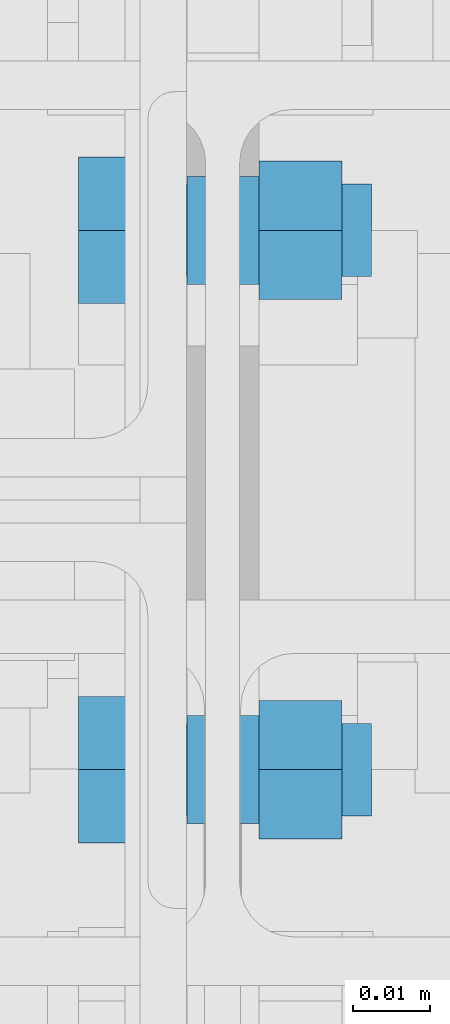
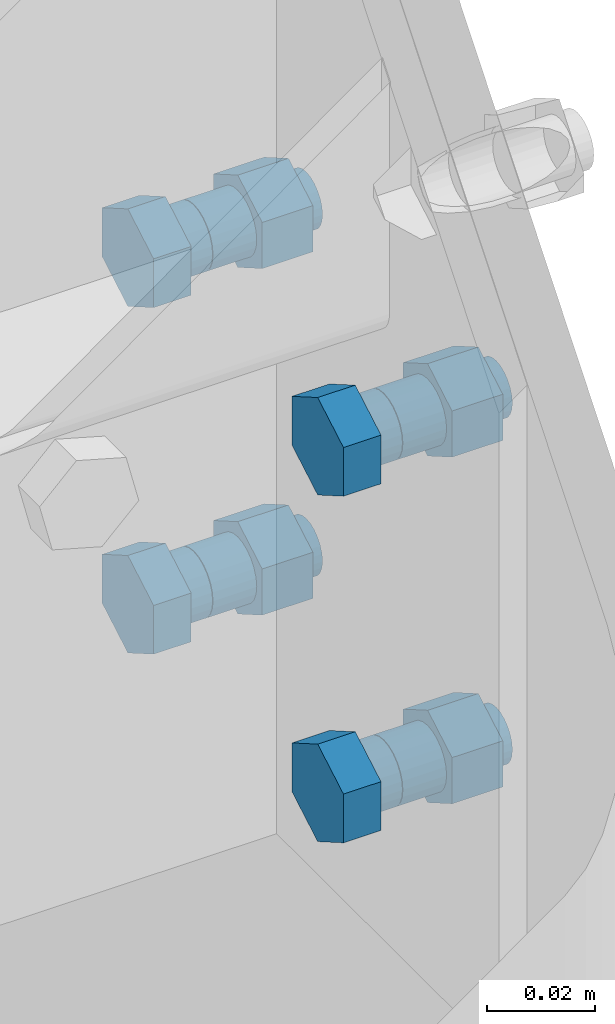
# One storey, part 10 of 21: 1 mechanical fastener.
"""IFC2X3 building model written with IfcOpenShell, lengths in millimetres."""

from ifc_helpers import new_model, si_unit, frame, origin_with_axes, place, context, project, spatial, faceted_brep, element, save


model = new_model("IFC2X3")

# Units and contexts
model_context_1 = context("Model", 3, precision=1e-05, world=origin_with_axes(), identifier="Body")
model_context_2 = context("Model", 3, precision=1e-05, world=origin_with_axes())
ifc_project = project(units=[si_unit("LENGTHUNIT", "METRE", prefix="MILLI"), si_unit("AREAUNIT", "SQUARE_METRE"), si_unit("VOLUMEUNIT", "CUBIC_METRE"), si_unit("MASSUNIT", "GRAM", prefix="KILO"), si_unit("TIMEUNIT", "SECOND"), si_unit("PLANEANGLEUNIT", "RADIAN"), si_unit("SOLIDANGLEUNIT", "STERADIAN"), si_unit("THERMODYNAMICTEMPERATUREUNIT", "DEGREE_CELSIUS"), si_unit("LUMINOUSINTENSITYUNIT", "LUMEN")], contexts=[model_context_1, model_context_2])

# Site, building, storey
site_placement = place(None, origin_with_axes())
site = spatial("IfcSite", under=ifc_project, at=site_placement, Name="Undefined", CompositionType="ELEMENT")
building_placement = place(site_placement, origin_with_axes())
building = spatial("IfcBuilding", under=site, at=building_placement, Name="Undefined", CompositionType="ELEMENT")
storey_placement = place(building_placement, origin_with_axes())
storey = spatial("IfcBuildingStorey", under=building, at=storey_placement, Name="Undefined", CompositionType="ELEMENT")

# Mechanical fastener
mechanical_fastener_placement = place(storey_placement, frame((-9.7282021e-06, -71.999999, 5339.9994), z_axis=(0.0, -1.0, 0.0), x_axis=(1.2908193e-13, -1.8000416e-13, -1.0)))
element("IfcMechanicalFastener", 1, at=mechanical_fastener_placement, inside=storey, Name="Bolt assembly", NominalDiameter=12.0, NominalLength=30.0, context=model_context_1, shape_type="Brep", body=[
    faceted_brep([(10.969655, -18.7, -35.0), (5.4848276, -18.7, -25.5), (-5.4848276, -18.7, -25.5), (-10.969655, -18.7, -35.0), (-5.4848276, -18.7, -44.5), (5.4848276, -18.7, -44.5), (5.4848276, -10.7, -44.5), (-5.4848276, -10.7, -44.5), (-10.969655, -10.7, -35.0), (-5.4848276, -10.7, -25.5), (5.4848276, -10.7, -25.5), (10.969655, -10.7, -35.0), (6.0, -10.7, -35.0), (5.795555, -10.7, -33.447086), (5.1961524, -10.7, -32.0), (4.2426407, -10.7, -30.757359), (3.0, -10.7, -29.803848), (1.5529143, -10.7, -29.204445), (-6.2180159e-13, -10.7, -29.0), (-1.5529143, -10.7, -29.204445), (-3.0, -10.7, -29.803848), (-4.2426407, -10.7, -30.757359), (-5.1961524, -10.7, -32.0), (-5.795555, -10.7, -33.447086), (-6.0, -10.7, -35.0), (-5.795555, -10.7, -36.552914), (-5.1961524, -10.7, -38.0), (-4.2426407, -10.7, -39.242641), (-3.0, -10.7, -40.196152), (-1.5529143, -10.7, -40.795555), (1.8587434e-12, -10.7, -41.0), (1.5529143, -10.7, -40.795555), (3.0, -10.7, -40.196152), (4.2426407, -10.7, -39.242641), (5.1961524, -10.7, -38.0), (5.795555, -10.7, -36.552914), (5.795555, 19.3, -36.552914), (5.1961524, 19.3, -38.0), (4.2426407, 19.3, -39.242641), (3.0, 19.3, -40.196152), (1.5529143, 19.3, -40.795555), (1.8587434e-12, 19.3, -41.0), (-1.5529143, 19.3, -40.795555), (-3.0, 19.3, -40.196152), (-4.2426407, 19.3, -39.242641), (-5.1961524, 19.3, -38.0), (-5.795555, 19.3, -36.552914), (-6.0, 19.3, -35.0), (-5.795555, 19.3, -33.447086), (-5.1961524, 19.3, -32.0), (-4.2426407, 19.3, -30.757359), (-3.0, 19.3, -29.803848), (-1.5529143, 19.3, -29.204445), (-6.2180159e-13, 19.3, -29.0), (1.5529143, 19.3, -29.204445), (3.0, 19.3, -29.803848), (4.2426407, 19.3, -30.757359), (5.1961524, 19.3, -32.0), (5.795555, 19.3, -33.447086), (6.0, 19.3, -35.0), (10.392305, 4.7000095, -35.0), (5.1961524, 4.7000095, -26.0), (-5.1961524, 4.7000095, -26.0), (-10.392305, 4.7000095, -35.0), (-5.1961524, 4.7000095, -44.0), (5.1961524, 4.7000095, -44.0), (5.1961524, 15.50001, -44.0), (-5.1961524, 15.50001, -44.0), (-10.392305, 15.50001, -35.0), (-5.1961524, 15.50001, -26.0), (5.1961524, 15.50001, -26.0), (10.392305, 15.50001, -35.0), (88.969655, -18.7, -35.0), (83.484828, -18.7, -25.5), (72.515172, -18.7, -25.5), (67.030345, -18.7, -35.0), (72.515172, -18.7, -44.5), (83.484828, -18.7, -44.5), (83.484828, -10.7, -44.5), (72.515172, -10.7, -44.5), (67.030345, -10.7, -35.0), (72.515172, -10.7, -25.5), (83.484828, -10.7, -25.5), (88.969655, -10.7, -35.0), (84.0, -10.7, -35.0), (83.795555, -10.7, -33.447086), (83.196152, -10.7, -32.0), (82.242641, -10.7, -30.757359), (81.0, -10.7, -29.803848), (79.552914, -10.7, -29.204445), (78.0, -10.7, -29.0), (76.447086, -10.7, -29.204445), (75.0, -10.7, -29.803848), (73.757359, -10.7, -30.757359), (72.803848, -10.7, -32.0), (72.204445, -10.7, -33.447086), (72.0, -10.7, -35.0), (72.204445, -10.7, -36.552914), (72.803848, -10.7, -38.0), (73.757359, -10.7, -39.242641), (75.0, -10.7, -40.196152), (76.447086, -10.7, -40.795555), (78.0, -10.7, -41.0), (79.552914, -10.7, -40.795555), (81.0, -10.7, -40.196152), (82.242641, -10.7, -39.242641), (83.196152, -10.7, -38.0), (83.795555, -10.7, -36.552914), (83.795555, 19.3, -36.552914), (83.196152, 19.3, -38.0), (82.242641, 19.3, -39.242641), (81.0, 19.3, -40.196152), (79.552914, 19.3, -40.795555), (78.0, 19.3, -41.0), (76.447086, 19.3, -40.795555), (75.0, 19.3, -40.196152), (73.757359, 19.3, -39.242641), (72.803848, 19.3, -38.0), (72.204445, 19.3, -36.552914), (72.0, 19.3, -35.0), (72.204445, 19.3, -33.447086), (72.803848, 19.3, -32.0), (73.757359, 19.3, -30.757359), (75.0, 19.3, -29.803848), (76.447086, 19.3, -29.204445), (78.0, 19.3, -29.0), (79.552914, 19.3, -29.204445), (81.0, 19.3, -29.803848), (82.242641, 19.3, -30.757359), (83.196152, 19.3, -32.0), (83.795555, 19.3, -33.447086), (84.0, 19.3, -35.0), (88.392305, 4.7000095, -35.0), (83.196152, 4.7000095, -26.0), (72.803848, 4.7000095, -26.0), (67.607695, 4.7000095, -35.0), (72.803848, 4.7000095, -44.0), (83.196152, 4.7000095, -44.0), (83.196152, 15.50001, -44.0), (72.803848, 15.50001, -44.0), (67.607695, 15.50001, -35.0), (72.803848, 15.50001, -26.0), (83.196152, 15.50001, -26.0), (88.392305, 15.50001, -35.0), (10.969655, -18.7, 35.0), (5.4848276, -18.7, 44.5), (-5.4848276, -18.7, 44.5), (-10.969655, -18.7, 35.0), (-5.4848276, -18.7, 25.5), (5.4848276, -18.7, 25.5), (5.4848276, -10.7, 25.5), (-5.4848276, -10.7, 25.5), (-10.969655, -10.7, 35.0), (-5.4848276, -10.7, 44.5), (5.4848276, -10.7, 44.5), (10.969655, -10.7, 35.0), (6.0, -10.7, 35.0), (5.795555, -10.7, 36.552914), (5.1961524, -10.7, 38.0), (4.2426407, -10.7, 39.242641), (3.0, -10.7, 40.196152), (1.5529143, -10.7, 40.795555), (-6.2180159e-13, -10.7, 41.0), (-1.5529143, -10.7, 40.795555), (-3.0, -10.7, 40.196152), (-4.2426407, -10.7, 39.242641), (-5.1961524, -10.7, 38.0), (-5.795555, -10.7, 36.552914), (-6.0, -10.7, 35.0), (-5.795555, -10.7, 33.447086), (-5.1961524, -10.7, 32.0), (-4.2426407, -10.7, 30.757359), (-3.0, -10.7, 29.803848), (-1.5529143, -10.7, 29.204445), (1.8587434e-12, -10.7, 29.0), (1.5529143, -10.7, 29.204445), (3.0, -10.7, 29.803848), (4.2426407, -10.7, 30.757359), (5.1961524, -10.7, 32.0), (5.795555, -10.7, 33.447086), (5.795555, 19.3, 33.447086), (5.1961524, 19.3, 32.0), (4.2426407, 19.3, 30.757359), (3.0, 19.3, 29.803848), (1.5529143, 19.3, 29.204445), (1.8587434e-12, 19.3, 29.0), (-1.5529143, 19.3, 29.204445), (-3.0, 19.3, 29.803848), (-4.2426407, 19.3, 30.757359), (-5.1961524, 19.3, 32.0), (-5.795555, 19.3, 33.447086), (-6.0, 19.3, 35.0), (-5.795555, 19.3, 36.552914), (-5.1961524, 19.3, 38.0), (-4.2426407, 19.3, 39.242641), (-3.0, 19.3, 40.196152), (-1.5529143, 19.3, 40.795555), (-6.2180159e-13, 19.3, 41.0), (1.5529143, 19.3, 40.795555), (3.0, 19.3, 40.196152), (4.2426407, 19.3, 39.242641), (5.1961524, 19.3, 38.0), (5.795555, 19.3, 36.552914), (6.0, 19.3, 35.0), (10.392305, 4.7000095, 35.0), (5.1961524, 4.7000095, 44.0), (-5.1961524, 4.7000095, 44.0), (-10.392305, 4.7000095, 35.0), (-5.1961524, 4.7000095, 26.0), (5.1961524, 4.7000095, 26.0), (5.1961524, 15.50001, 26.0), (-5.1961524, 15.50001, 26.0), (-10.392305, 15.50001, 35.0), (-5.1961524, 15.50001, 44.0), (5.1961524, 15.50001, 44.0), (10.392305, 15.50001, 35.0), (88.969655, -18.7, 35.0), (83.484828, -18.7, 44.5), (72.515172, -18.7, 44.5), (67.030345, -18.7, 35.0), (72.515172, -18.7, 25.5), (83.484828, -18.7, 25.5), (83.484828, -10.7, 25.5), (72.515172, -10.7, 25.5), (67.030345, -10.7, 35.0), (72.515172, -10.7, 44.5), (83.484828, -10.7, 44.5), (88.969655, -10.7, 35.0), (84.0, -10.7, 35.0), (83.795555, -10.7, 36.552914), (83.196152, -10.7, 38.0), (82.242641, -10.7, 39.242641), (81.0, -10.7, 40.196152), (79.552914, -10.7, 40.795555), (78.0, -10.7, 41.0), (76.447086, -10.7, 40.795555), (75.0, -10.7, 40.196152), (73.757359, -10.7, 39.242641), (72.803848, -10.7, 38.0), (72.204445, -10.7, 36.552914), (72.0, -10.7, 35.0), (72.204445, -10.7, 33.447086), (72.803848, -10.7, 32.0), (73.757359, -10.7, 30.757359), (75.0, -10.7, 29.803848), (76.447086, -10.7, 29.204445), (78.0, -10.7, 29.0), (79.552914, -10.7, 29.204445), (81.0, -10.7, 29.803848), (82.242641, -10.7, 30.757359), (83.196152, -10.7, 32.0), (83.795555, -10.7, 33.447086), (83.795555, 19.3, 33.447086), (83.196152, 19.3, 32.0), (82.242641, 19.3, 30.757359), (81.0, 19.3, 29.803848), (79.552914, 19.3, 29.204445), (78.0, 19.3, 29.0), (76.447086, 19.3, 29.204445), (75.0, 19.3, 29.803848), (73.757359, 19.3, 30.757359), (72.803848, 19.3, 32.0), (72.204445, 19.3, 33.447086), (72.0, 19.3, 35.0), (72.204445, 19.3, 36.552914), (72.803848, 19.3, 38.0), (73.757359, 19.3, 39.242641), (75.0, 19.3, 40.196152), (76.447086, 19.3, 40.795555), (78.0, 19.3, 41.0), (79.552914, 19.3, 40.795555), (81.0, 19.3, 40.196152), (82.242641, 19.3, 39.242641), (83.196152, 19.3, 38.0), (83.795555, 19.3, 36.552914), (84.0, 19.3, 35.0), (88.392305, 4.7000095, 35.0), (83.196152, 4.7000095, 44.0), (72.803848, 4.7000095, 44.0), (67.607695, 4.7000095, 35.0), (72.803848, 4.7000095, 26.0), (83.196152, 4.7000095, 26.0), (83.196152, 15.50001, 26.0), (72.803848, 15.50001, 26.0), (67.607695, 15.50001, 35.0), (72.803848, 15.50001, 44.0), (83.196152, 15.50001, 44.0), (88.392305, 15.50001, 35.0)], [[[0, 1, 2, 3, 4, 5]], [[6, 7, 8, 9, 10, 11]], [[0, 11, 10, 1]], [[1, 10, 9, 2]], [[2, 9, 8, 3]], [[3, 8, 7, 4]], [[4, 7, 6, 5]], [[5, 6, 11, 0]], [[12, 13, 14, 15, 16, 17, 18, 19, 20, 21, 22, 23, 24, 25, 26, 27, 28, 29, 30, 31, 32, 33, 34, 35]], [[36, 37, 38, 39, 40, 41, 42, 43, 44, 45, 46, 47, 48, 49, 50, 51, 52, 53, 54, 55, 56, 57, 58, 59]], [[12, 59, 58, 13]], [[13, 58, 57, 14]], [[14, 57, 56, 15]], [[15, 56, 55, 16]], [[16, 55, 54, 17]], [[17, 54, 53, 18]], [[18, 53, 52, 19]], [[19, 52, 51, 20]], [[20, 51, 50, 21]], [[21, 50, 49, 22]], [[22, 49, 48, 23]], [[23, 48, 47, 24]], [[24, 47, 46, 25]], [[25, 46, 45, 26]], [[26, 45, 44, 27]], [[27, 44, 43, 28]], [[28, 43, 42, 29]], [[29, 42, 41, 30]], [[30, 41, 40, 31]], [[31, 40, 39, 32]], [[32, 39, 38, 33]], [[33, 38, 37, 34]], [[34, 37, 36, 35]], [[35, 36, 59, 12]], [[60, 61, 62, 63, 64, 65]], [[66, 67, 68, 69, 70, 71]], [[60, 71, 70, 61]], [[61, 70, 69, 62]], [[62, 69, 68, 63]], [[63, 68, 67, 64]], [[64, 67, 66, 65]], [[65, 66, 71, 60]], [[72, 73, 74, 75, 76, 77]], [[78, 79, 80, 81, 82, 83]], [[72, 83, 82, 73]], [[73, 82, 81, 74]], [[74, 81, 80, 75]], [[75, 80, 79, 76]], [[76, 79, 78, 77]], [[77, 78, 83, 72]], [[84, 85, 86, 87, 88, 89, 90, 91, 92, 93, 94, 95, 96, 97, 98, 99, 100, 101, 102, 103, 104, 105, 106, 107]], [[108, 109, 110, 111, 112, 113, 114, 115, 116, 117, 118, 119, 120, 121, 122, 123, 124, 125, 126, 127, 128, 129, 130, 131]], [[84, 131, 130, 85]], [[85, 130, 129, 86]], [[86, 129, 128, 87]], [[87, 128, 127, 88]], [[88, 127, 126, 89]], [[89, 126, 125, 90]], [[90, 125, 124, 91]], [[91, 124, 123, 92]], [[92, 123, 122, 93]], [[93, 122, 121, 94]], [[94, 121, 120, 95]], [[95, 120, 119, 96]], [[96, 119, 118, 97]], [[97, 118, 117, 98]], [[98, 117, 116, 99]], [[99, 116, 115, 100]], [[100, 115, 114, 101]], [[101, 114, 113, 102]], [[102, 113, 112, 103]], [[103, 112, 111, 104]], [[104, 111, 110, 105]], [[105, 110, 109, 106]], [[106, 109, 108, 107]], [[107, 108, 131, 84]], [[132, 133, 134, 135, 136, 137]], [[138, 139, 140, 141, 142, 143]], [[132, 143, 142, 133]], [[133, 142, 141, 134]], [[134, 141, 140, 135]], [[135, 140, 139, 136]], [[136, 139, 138, 137]], [[137, 138, 143, 132]], [[144, 145, 146, 147, 148, 149]], [[150, 151, 152, 153, 154, 155]], [[144, 155, 154, 145]], [[145, 154, 153, 146]], [[146, 153, 152, 147]], [[147, 152, 151, 148]], [[148, 151, 150, 149]], [[149, 150, 155, 144]], [[156, 157, 158, 159, 160, 161, 162, 163, 164, 165, 166, 167, 168, 169, 170, 171, 172, 173, 174, 175, 176, 177, 178, 179]], [[180, 181, 182, 183, 184, 185, 186, 187, 188, 189, 190, 191, 192, 193, 194, 195, 196, 197, 198, 199, 200, 201, 202, 203]], [[156, 203, 202, 157]], [[157, 202, 201, 158]], [[158, 201, 200, 159]], [[159, 200, 199, 160]], [[160, 199, 198, 161]], [[161, 198, 197, 162]], [[162, 197, 196, 163]], [[163, 196, 195, 164]], [[164, 195, 194, 165]], [[165, 194, 193, 166]], [[166, 193, 192, 167]], [[167, 192, 191, 168]], [[168, 191, 190, 169]], [[169, 190, 189, 170]], [[170, 189, 188, 171]], [[171, 188, 187, 172]], [[172, 187, 186, 173]], [[173, 186, 185, 174]], [[174, 185, 184, 175]], [[175, 184, 183, 176]], [[176, 183, 182, 177]], [[177, 182, 181, 178]], [[178, 181, 180, 179]], [[179, 180, 203, 156]], [[204, 205, 206, 207, 208, 209]], [[210, 211, 212, 213, 214, 215]], [[204, 215, 214, 205]], [[205, 214, 213, 206]], [[206, 213, 212, 207]], [[207, 212, 211, 208]], [[208, 211, 210, 209]], [[209, 210, 215, 204]], [[216, 217, 218, 219, 220, 221]], [[222, 223, 224, 225, 226, 227]], [[216, 227, 226, 217]], [[217, 226, 225, 218]], [[218, 225, 224, 219]], [[219, 224, 223, 220]], [[220, 223, 222, 221]], [[221, 222, 227, 216]], [[228, 229, 230, 231, 232, 233, 234, 235, 236, 237, 238, 239, 240, 241, 242, 243, 244, 245, 246, 247, 248, 249, 250, 251]], [[252, 253, 254, 255, 256, 257, 258, 259, 260, 261, 262, 263, 264, 265, 266, 267, 268, 269, 270, 271, 272, 273, 274, 275]], [[228, 275, 274, 229]], [[229, 274, 273, 230]], [[230, 273, 272, 231]], [[231, 272, 271, 232]], [[232, 271, 270, 233]], [[233, 270, 269, 234]], [[234, 269, 268, 235]], [[235, 268, 267, 236]], [[236, 267, 266, 237]], [[237, 266, 265, 238]], [[238, 265, 264, 239]], [[239, 264, 263, 240]], [[240, 263, 262, 241]], [[241, 262, 261, 242]], [[242, 261, 260, 243]], [[243, 260, 259, 244]], [[244, 259, 258, 245]], [[245, 258, 257, 246]], [[246, 257, 256, 247]], [[247, 256, 255, 248]], [[248, 255, 254, 249]], [[249, 254, 253, 250]], [[250, 253, 252, 251]], [[251, 252, 275, 228]], [[276, 277, 278, 279, 280, 281]], [[282, 283, 284, 285, 286, 287]], [[276, 287, 286, 277]], [[277, 286, 285, 278]], [[278, 285, 284, 279]], [[279, 284, 283, 280]], [[280, 283, 282, 281]], [[281, 282, 287, 276]]]),
    faceted_brep([(7.0, -4.5999901, -35.0), (6.7614808, -4.5999901, -33.188267), (6.0621778, -4.5999901, -31.5), (4.9497475, -4.5999901, -30.050253), (3.5, -4.5999901, -28.937822), (1.8117333, -4.5999901, -28.238519), (-7.2543519e-13, -4.5999901, -28.0), (-1.8117333, -4.5999901, -28.238519), (-3.5, -4.5999901, -28.937822), (-4.9497475, -4.5999901, -30.050253), (-6.0621778, -4.5999901, -31.5), (-6.7614808, -4.5999901, -33.188267), (-7.0, -4.5999901, -35.0), (-6.7614808, -4.5999901, -36.811733), (-6.0621778, -4.5999901, -38.5), (-4.9497475, -4.5999901, -39.949747), (-3.5, -4.5999901, -41.062178), (-1.8117333, -4.5999901, -41.761481), (2.168534e-12, -4.5999901, -42.0), (1.8117333, -4.5999901, -41.761481), (3.5, -4.5999901, -41.062178), (4.9497475, -4.5999901, -39.949747), (6.0621778, -4.5999901, -38.5), (6.7614808, -4.5999901, -36.811733), (6.7614808, 4.8000095, -36.811733), (6.0621778, 4.8000095, -38.5), (4.9497475, 4.8000095, -39.949747), (3.5, 4.8000095, -41.062178), (1.8117333, 4.8000095, -41.761481), (2.168534e-12, 4.8000095, -42.0), (-1.8117333, 4.8000095, -41.761481), (-3.5, 4.8000095, -41.062178), (-4.9497475, 4.8000095, -39.949747), (-6.0621778, 4.8000095, -38.5), (-6.7614808, 4.8000095, -36.811733), (-7.0, 4.8000095, -35.0), (-6.7614808, 4.8000095, -33.188267), (-6.0621778, 4.8000095, -31.5), (-4.9497475, 4.8000095, -30.050253), (-3.5, 4.8000095, -28.937822), (-1.8117333, 4.8000095, -28.238519), (-7.2543519e-13, 4.8000095, -28.0), (1.8117333, 4.8000095, -28.238519), (3.5, 4.8000095, -28.937822), (4.9497475, 4.8000095, -30.050253), (6.0621778, 4.8000095, -31.5), (6.7614808, 4.8000095, -33.188267), (7.0, 4.8000095, -35.0), (7.0, -10.8, -35.0), (6.7614808, -10.8, -33.188267), (6.0621778, -10.8, -31.5), (4.9497475, -10.8, -30.050253), (3.5, -10.8, -28.937822), (1.8117333, -10.8, -28.238519), (-7.2543519e-13, -10.8, -28.0), (-1.8117333, -10.8, -28.238519), (-3.5, -10.8, -28.937822), (-4.9497475, -10.8, -30.050253), (-6.0621778, -10.8, -31.5), (-6.7614808, -10.8, -33.188267), (-7.0, -10.8, -35.0), (-6.7614808, -10.8, -36.811733), (-6.0621778, -10.8, -38.5), (-4.9497475, -10.8, -39.949747), (-3.5, -10.8, -41.062178), (-1.8117333, -10.8, -41.761481), (2.168534e-12, -10.8, -42.0), (1.8117333, -10.8, -41.761481), (3.5, -10.8, -41.062178), (4.9497475, -10.8, -39.949747), (6.0621778, -10.8, -38.5), (6.7614808, -10.8, -36.811733), (6.7614808, -4.7, -36.811733), (6.0621778, -4.7, -38.5), (4.9497475, -4.7, -39.949747), (3.5, -4.7, -41.062178), (1.8117333, -4.7, -41.761481), (2.168534e-12, -4.7, -42.0), (-1.8117333, -4.7, -41.761481), (-3.5, -4.7, -41.062178), (-4.9497475, -4.7, -39.949747), (-6.0621778, -4.7, -38.5), (-6.7614808, -4.7, -36.811733), (-7.0, -4.7, -35.0), (-6.7614808, -4.7, -33.188267), (-6.0621778, -4.7, -31.5), (-4.9497475, -4.7, -30.050253), (-3.5, -4.7, -28.937822), (-1.8117333, -4.7, -28.238519), (-7.2543519e-13, -4.7, -28.0), (1.8117333, -4.7, -28.238519), (3.5, -4.7, -28.937822), (4.9497475, -4.7, -30.050253), (6.0621778, -4.7, -31.5), (6.7614808, -4.7, -33.188267), (7.0, -4.7, -35.0), (85.0, -4.5999901, -35.0), (84.761481, -4.5999901, -33.188267), (84.062178, -4.5999901, -31.5), (82.949747, -4.5999901, -30.050253), (81.5, -4.5999901, -28.937822), (79.811733, -4.5999901, -28.238519), (78.0, -4.5999901, -28.0), (76.188267, -4.5999901, -28.238519), (74.5, -4.5999901, -28.937822), (73.050253, -4.5999901, -30.050253), (71.937822, -4.5999901, -31.5), (71.238519, -4.5999901, -33.188267), (71.0, -4.5999901, -35.0), (71.238519, -4.5999901, -36.811733), (71.937822, -4.5999901, -38.5), (73.050253, -4.5999901, -39.949747), (74.5, -4.5999901, -41.062178), (76.188267, -4.5999901, -41.761481), (78.0, -4.5999901, -42.0), (79.811733, -4.5999901, -41.761481), (81.5, -4.5999901, -41.062178), (82.949747, -4.5999901, -39.949747), (84.062178, -4.5999901, -38.5), (84.761481, -4.5999901, -36.811733), (84.761481, 4.8000095, -36.811733), (84.062178, 4.8000095, -38.5), (82.949747, 4.8000095, -39.949747), (81.5, 4.8000095, -41.062178), (79.811733, 4.8000095, -41.761481), (78.0, 4.8000095, -42.0), (76.188267, 4.8000095, -41.761481), (74.5, 4.8000095, -41.062178), (73.050253, 4.8000095, -39.949747), (71.937822, 4.8000095, -38.5), (71.238519, 4.8000095, -36.811733), (71.0, 4.8000095, -35.0), (71.238519, 4.8000095, -33.188267), (71.937822, 4.8000095, -31.5), (73.050253, 4.8000095, -30.050253), (74.5, 4.8000095, -28.937822), (76.188267, 4.8000095, -28.238519), (78.0, 4.8000095, -28.0), (79.811733, 4.8000095, -28.238519), (81.5, 4.8000095, -28.937822), (82.949747, 4.8000095, -30.050253), (84.062178, 4.8000095, -31.5), (84.761481, 4.8000095, -33.188267), (85.0, 4.8000095, -35.0), (85.0, -10.8, -35.0), (84.761481, -10.8, -33.188267), (84.062178, -10.8, -31.5), (82.949747, -10.8, -30.050253), (81.5, -10.8, -28.937822), (79.811733, -10.8, -28.238519), (78.0, -10.8, -28.0), (76.188267, -10.8, -28.238519), (74.5, -10.8, -28.937822), (73.050253, -10.8, -30.050253), (71.937822, -10.8, -31.5), (71.238519, -10.8, -33.188267), (71.0, -10.8, -35.0), (71.238519, -10.8, -36.811733), (71.937822, -10.8, -38.5), (73.050253, -10.8, -39.949747), (74.5, -10.8, -41.062178), (76.188267, -10.8, -41.761481), (78.0, -10.8, -42.0), (79.811733, -10.8, -41.761481), (81.5, -10.8, -41.062178), (82.949747, -10.8, -39.949747), (84.062178, -10.8, -38.5), (84.761481, -10.8, -36.811733), (84.761481, -4.7, -36.811733), (84.062178, -4.7, -38.5), (82.949747, -4.7, -39.949747), (81.5, -4.7, -41.062178), (79.811733, -4.7, -41.761481), (78.0, -4.7, -42.0), (76.188267, -4.7, -41.761481), (74.5, -4.7, -41.062178), (73.050253, -4.7, -39.949747), (71.937822, -4.7, -38.5), (71.238519, -4.7, -36.811733), (71.0, -4.7, -35.0), (71.238519, -4.7, -33.188267), (71.937822, -4.7, -31.5), (73.050253, -4.7, -30.050253), (74.5, -4.7, -28.937822), (76.188267, -4.7, -28.238519), (78.0, -4.7, -28.0), (79.811733, -4.7, -28.238519), (81.5, -4.7, -28.937822), (82.949747, -4.7, -30.050253), (84.062178, -4.7, -31.5), (84.761481, -4.7, -33.188267), (85.0, -4.7, -35.0), (7.0, -4.5999901, 35.0), (6.7614808, -4.5999901, 36.811733), (6.0621778, -4.5999901, 38.5), (4.9497475, -4.5999901, 39.949747), (3.5, -4.5999901, 41.062178), (1.8117333, -4.5999901, 41.761481), (-7.2543519e-13, -4.5999901, 42.0), (-1.8117333, -4.5999901, 41.761481), (-3.5, -4.5999901, 41.062178), (-4.9497475, -4.5999901, 39.949747), (-6.0621778, -4.5999901, 38.5), (-6.7614808, -4.5999901, 36.811733), (-7.0, -4.5999901, 35.0), (-6.7614808, -4.5999901, 33.188267), (-6.0621778, -4.5999901, 31.5), (-4.9497475, -4.5999901, 30.050253), (-3.5, -4.5999901, 28.937822), (-1.8117333, -4.5999901, 28.238519), (2.168534e-12, -4.5999901, 28.0), (1.8117333, -4.5999901, 28.238519), (3.5, -4.5999901, 28.937822), (4.9497475, -4.5999901, 30.050253), (6.0621778, -4.5999901, 31.5), (6.7614808, -4.5999901, 33.188267), (6.7614808, 4.8000095, 33.188267), (6.0621778, 4.8000095, 31.5), (4.9497475, 4.8000095, 30.050253), (3.5, 4.8000095, 28.937822), (1.8117333, 4.8000095, 28.238519), (2.168534e-12, 4.8000095, 28.0), (-1.8117333, 4.8000095, 28.238519), (-3.5, 4.8000095, 28.937822), (-4.9497475, 4.8000095, 30.050253), (-6.0621778, 4.8000095, 31.5), (-6.7614808, 4.8000095, 33.188267), (-7.0, 4.8000095, 35.0), (-6.7614808, 4.8000095, 36.811733), (-6.0621778, 4.8000095, 38.5), (-4.9497475, 4.8000095, 39.949747), (-3.5, 4.8000095, 41.062178), (-1.8117333, 4.8000095, 41.761481), (-7.2543519e-13, 4.8000095, 42.0), (1.8117333, 4.8000095, 41.761481), (3.5, 4.8000095, 41.062178), (4.9497475, 4.8000095, 39.949747), (6.0621778, 4.8000095, 38.5), (6.7614808, 4.8000095, 36.811733), (7.0, 4.8000095, 35.0), (7.0, -10.8, 35.0), (6.7614808, -10.8, 36.811733), (6.0621778, -10.8, 38.5), (4.9497475, -10.8, 39.949747), (3.5, -10.8, 41.062178), (1.8117333, -10.8, 41.761481), (-7.2543519e-13, -10.8, 42.0), (-1.8117333, -10.8, 41.761481), (-3.5, -10.8, 41.062178), (-4.9497475, -10.8, 39.949747), (-6.0621778, -10.8, 38.5), (-6.7614808, -10.8, 36.811733), (-7.0, -10.8, 35.0), (-6.7614808, -10.8, 33.188267), (-6.0621778, -10.8, 31.5), (-4.9497475, -10.8, 30.050253), (-3.5, -10.8, 28.937822), (-1.8117333, -10.8, 28.238519), (2.168534e-12, -10.8, 28.0), (1.8117333, -10.8, 28.238519), (3.5, -10.8, 28.937822), (4.9497475, -10.8, 30.050253), (6.0621778, -10.8, 31.5), (6.7614808, -10.8, 33.188267), (6.7614808, -4.7, 33.188267), (6.0621778, -4.7, 31.5), (4.9497475, -4.7, 30.050253), (3.5, -4.7, 28.937822), (1.8117333, -4.7, 28.238519), (2.168534e-12, -4.7, 28.0), (-1.8117333, -4.7, 28.238519), (-3.5, -4.7, 28.937822), (-4.9497475, -4.7, 30.050253), (-6.0621778, -4.7, 31.5), (-6.7614808, -4.7, 33.188267), (-7.0, -4.7, 35.0), (-6.7614808, -4.7, 36.811733), (-6.0621778, -4.7, 38.5), (-4.9497475, -4.7, 39.949747), (-3.5, -4.7, 41.062178), (-1.8117333, -4.7, 41.761481), (-7.2543519e-13, -4.7, 42.0), (1.8117333, -4.7, 41.761481), (3.5, -4.7, 41.062178), (4.9497475, -4.7, 39.949747), (6.0621778, -4.7, 38.5), (6.7614808, -4.7, 36.811733), (7.0, -4.7, 35.0), (85.0, -4.5999901, 35.0), (84.761481, -4.5999901, 36.811733), (84.062178, -4.5999901, 38.5), (82.949747, -4.5999901, 39.949747), (81.5, -4.5999901, 41.062178), (79.811733, -4.5999901, 41.761481), (78.0, -4.5999901, 42.0), (76.188267, -4.5999901, 41.761481), (74.5, -4.5999901, 41.062178), (73.050253, -4.5999901, 39.949747), (71.937822, -4.5999901, 38.5), (71.238519, -4.5999901, 36.811733), (71.0, -4.5999901, 35.0), (71.238519, -4.5999901, 33.188267), (71.937822, -4.5999901, 31.5), (73.050253, -4.5999901, 30.050253), (74.5, -4.5999901, 28.937822), (76.188267, -4.5999901, 28.238519), (78.0, -4.5999901, 28.0), (79.811733, -4.5999901, 28.238519), (81.5, -4.5999901, 28.937822), (82.949747, -4.5999901, 30.050253), (84.062178, -4.5999901, 31.5), (84.761481, -4.5999901, 33.188267), (84.761481, 4.8000095, 33.188267), (84.062178, 4.8000095, 31.5), (82.949747, 4.8000095, 30.050253), (81.5, 4.8000095, 28.937822), (79.811733, 4.8000095, 28.238519), (78.0, 4.8000095, 28.0), (76.188267, 4.8000095, 28.238519), (74.5, 4.8000095, 28.937822), (73.050253, 4.8000095, 30.050253), (71.937822, 4.8000095, 31.5), (71.238519, 4.8000095, 33.188267), (71.0, 4.8000095, 35.0), (71.238519, 4.8000095, 36.811733), (71.937822, 4.8000095, 38.5), (73.050253, 4.8000095, 39.949747), (74.5, 4.8000095, 41.062178), (76.188267, 4.8000095, 41.761481), (78.0, 4.8000095, 42.0), (79.811733, 4.8000095, 41.761481), (81.5, 4.8000095, 41.062178), (82.949747, 4.8000095, 39.949747), (84.062178, 4.8000095, 38.5), (84.761481, 4.8000095, 36.811733), (85.0, 4.8000095, 35.0), (85.0, -10.8, 35.0), (84.761481, -10.8, 36.811733), (84.062178, -10.8, 38.5), (82.949747, -10.8, 39.949747), (81.5, -10.8, 41.062178), (79.811733, -10.8, 41.761481), (78.0, -10.8, 42.0), (76.188267, -10.8, 41.761481), (74.5, -10.8, 41.062178), (73.050253, -10.8, 39.949747), (71.937822, -10.8, 38.5), (71.238519, -10.8, 36.811733), (71.0, -10.8, 35.0), (71.238519, -10.8, 33.188267), (71.937822, -10.8, 31.5), (73.050253, -10.8, 30.050253), (74.5, -10.8, 28.937822), (76.188267, -10.8, 28.238519), (78.0, -10.8, 28.0), (79.811733, -10.8, 28.238519), (81.5, -10.8, 28.937822), (82.949747, -10.8, 30.050253), (84.062178, -10.8, 31.5), (84.761481, -10.8, 33.188267), (84.761481, -4.7, 33.188267), (84.062178, -4.7, 31.5), (82.949747, -4.7, 30.050253), (81.5, -4.7, 28.937822), (79.811733, -4.7, 28.238519), (78.0, -4.7, 28.0), (76.188267, -4.7, 28.238519), (74.5, -4.7, 28.937822), (73.050253, -4.7, 30.050253), (71.937822, -4.7, 31.5), (71.238519, -4.7, 33.188267), (71.0, -4.7, 35.0), (71.238519, -4.7, 36.811733), (71.937822, -4.7, 38.5), (73.050253, -4.7, 39.949747), (74.5, -4.7, 41.062178), (76.188267, -4.7, 41.761481), (78.0, -4.7, 42.0), (79.811733, -4.7, 41.761481), (81.5, -4.7, 41.062178), (82.949747, -4.7, 39.949747), (84.062178, -4.7, 38.5), (84.761481, -4.7, 36.811733), (85.0, -4.7, 35.0)], [[[0, 1, 2, 3, 4, 5, 6, 7, 8, 9, 10, 11, 12, 13, 14, 15, 16, 17, 18, 19, 20, 21, 22, 23]], [[24, 25, 26, 27, 28, 29, 30, 31, 32, 33, 34, 35, 36, 37, 38, 39, 40, 41, 42, 43, 44, 45, 46, 47]], [[0, 47, 46, 1]], [[1, 46, 45, 2]], [[2, 45, 44, 3]], [[3, 44, 43, 4]], [[4, 43, 42, 5]], [[5, 42, 41, 6]], [[6, 41, 40, 7]], [[7, 40, 39, 8]], [[8, 39, 38, 9]], [[9, 38, 37, 10]], [[10, 37, 36, 11]], [[11, 36, 35, 12]], [[12, 35, 34, 13]], [[13, 34, 33, 14]], [[14, 33, 32, 15]], [[15, 32, 31, 16]], [[16, 31, 30, 17]], [[17, 30, 29, 18]], [[18, 29, 28, 19]], [[19, 28, 27, 20]], [[20, 27, 26, 21]], [[21, 26, 25, 22]], [[22, 25, 24, 23]], [[23, 24, 47, 0]], [[48, 49, 50, 51, 52, 53, 54, 55, 56, 57, 58, 59, 60, 61, 62, 63, 64, 65, 66, 67, 68, 69, 70, 71]], [[72, 73, 74, 75, 76, 77, 78, 79, 80, 81, 82, 83, 84, 85, 86, 87, 88, 89, 90, 91, 92, 93, 94, 95]], [[48, 95, 94, 49]], [[49, 94, 93, 50]], [[50, 93, 92, 51]], [[51, 92, 91, 52]], [[52, 91, 90, 53]], [[53, 90, 89, 54]], [[54, 89, 88, 55]], [[55, 88, 87, 56]], [[56, 87, 86, 57]], [[57, 86, 85, 58]], [[58, 85, 84, 59]], [[59, 84, 83, 60]], [[60, 83, 82, 61]], [[61, 82, 81, 62]], [[62, 81, 80, 63]], [[63, 80, 79, 64]], [[64, 79, 78, 65]], [[65, 78, 77, 66]], [[66, 77, 76, 67]], [[67, 76, 75, 68]], [[68, 75, 74, 69]], [[69, 74, 73, 70]], [[70, 73, 72, 71]], [[71, 72, 95, 48]], [[96, 97, 98, 99, 100, 101, 102, 103, 104, 105, 106, 107, 108, 109, 110, 111, 112, 113, 114, 115, 116, 117, 118, 119]], [[120, 121, 122, 123, 124, 125, 126, 127, 128, 129, 130, 131, 132, 133, 134, 135, 136, 137, 138, 139, 140, 141, 142, 143]], [[96, 143, 142, 97]], [[97, 142, 141, 98]], [[98, 141, 140, 99]], [[99, 140, 139, 100]], [[100, 139, 138, 101]], [[101, 138, 137, 102]], [[102, 137, 136, 103]], [[103, 136, 135, 104]], [[104, 135, 134, 105]], [[105, 134, 133, 106]], [[106, 133, 132, 107]], [[107, 132, 131, 108]], [[108, 131, 130, 109]], [[109, 130, 129, 110]], [[110, 129, 128, 111]], [[111, 128, 127, 112]], [[112, 127, 126, 113]], [[113, 126, 125, 114]], [[114, 125, 124, 115]], [[115, 124, 123, 116]], [[116, 123, 122, 117]], [[117, 122, 121, 118]], [[118, 121, 120, 119]], [[119, 120, 143, 96]], [[144, 145, 146, 147, 148, 149, 150, 151, 152, 153, 154, 155, 156, 157, 158, 159, 160, 161, 162, 163, 164, 165, 166, 167]], [[168, 169, 170, 171, 172, 173, 174, 175, 176, 177, 178, 179, 180, 181, 182, 183, 184, 185, 186, 187, 188, 189, 190, 191]], [[144, 191, 190, 145]], [[145, 190, 189, 146]], [[146, 189, 188, 147]], [[147, 188, 187, 148]], [[148, 187, 186, 149]], [[149, 186, 185, 150]], [[150, 185, 184, 151]], [[151, 184, 183, 152]], [[152, 183, 182, 153]], [[153, 182, 181, 154]], [[154, 181, 180, 155]], [[155, 180, 179, 156]], [[156, 179, 178, 157]], [[157, 178, 177, 158]], [[158, 177, 176, 159]], [[159, 176, 175, 160]], [[160, 175, 174, 161]], [[161, 174, 173, 162]], [[162, 173, 172, 163]], [[163, 172, 171, 164]], [[164, 171, 170, 165]], [[165, 170, 169, 166]], [[166, 169, 168, 167]], [[167, 168, 191, 144]], [[192, 193, 194, 195, 196, 197, 198, 199, 200, 201, 202, 203, 204, 205, 206, 207, 208, 209, 210, 211, 212, 213, 214, 215]], [[216, 217, 218, 219, 220, 221, 222, 223, 224, 225, 226, 227, 228, 229, 230, 231, 232, 233, 234, 235, 236, 237, 238, 239]], [[192, 239, 238, 193]], [[193, 238, 237, 194]], [[194, 237, 236, 195]], [[195, 236, 235, 196]], [[196, 235, 234, 197]], [[197, 234, 233, 198]], [[198, 233, 232, 199]], [[199, 232, 231, 200]], [[200, 231, 230, 201]], [[201, 230, 229, 202]], [[202, 229, 228, 203]], [[203, 228, 227, 204]], [[204, 227, 226, 205]], [[205, 226, 225, 206]], [[206, 225, 224, 207]], [[207, 224, 223, 208]], [[208, 223, 222, 209]], [[209, 222, 221, 210]], [[210, 221, 220, 211]], [[211, 220, 219, 212]], [[212, 219, 218, 213]], [[213, 218, 217, 214]], [[214, 217, 216, 215]], [[215, 216, 239, 192]], [[240, 241, 242, 243, 244, 245, 246, 247, 248, 249, 250, 251, 252, 253, 254, 255, 256, 257, 258, 259, 260, 261, 262, 263]], [[264, 265, 266, 267, 268, 269, 270, 271, 272, 273, 274, 275, 276, 277, 278, 279, 280, 281, 282, 283, 284, 285, 286, 287]], [[240, 287, 286, 241]], [[241, 286, 285, 242]], [[242, 285, 284, 243]], [[243, 284, 283, 244]], [[244, 283, 282, 245]], [[245, 282, 281, 246]], [[246, 281, 280, 247]], [[247, 280, 279, 248]], [[248, 279, 278, 249]], [[249, 278, 277, 250]], [[250, 277, 276, 251]], [[251, 276, 275, 252]], [[252, 275, 274, 253]], [[253, 274, 273, 254]], [[254, 273, 272, 255]], [[255, 272, 271, 256]], [[256, 271, 270, 257]], [[257, 270, 269, 258]], [[258, 269, 268, 259]], [[259, 268, 267, 260]], [[260, 267, 266, 261]], [[261, 266, 265, 262]], [[262, 265, 264, 263]], [[263, 264, 287, 240]], [[288, 289, 290, 291, 292, 293, 294, 295, 296, 297, 298, 299, 300, 301, 302, 303, 304, 305, 306, 307, 308, 309, 310, 311]], [[312, 313, 314, 315, 316, 317, 318, 319, 320, 321, 322, 323, 324, 325, 326, 327, 328, 329, 330, 331, 332, 333, 334, 335]], [[288, 335, 334, 289]], [[289, 334, 333, 290]], [[290, 333, 332, 291]], [[291, 332, 331, 292]], [[292, 331, 330, 293]], [[293, 330, 329, 294]], [[294, 329, 328, 295]], [[295, 328, 327, 296]], [[296, 327, 326, 297]], [[297, 326, 325, 298]], [[298, 325, 324, 299]], [[299, 324, 323, 300]], [[300, 323, 322, 301]], [[301, 322, 321, 302]], [[302, 321, 320, 303]], [[303, 320, 319, 304]], [[304, 319, 318, 305]], [[305, 318, 317, 306]], [[306, 317, 316, 307]], [[307, 316, 315, 308]], [[308, 315, 314, 309]], [[309, 314, 313, 310]], [[310, 313, 312, 311]], [[311, 312, 335, 288]], [[336, 337, 338, 339, 340, 341, 342, 343, 344, 345, 346, 347, 348, 349, 350, 351, 352, 353, 354, 355, 356, 357, 358, 359]], [[360, 361, 362, 363, 364, 365, 366, 367, 368, 369, 370, 371, 372, 373, 374, 375, 376, 377, 378, 379, 380, 381, 382, 383]], [[336, 383, 382, 337]], [[337, 382, 381, 338]], [[338, 381, 380, 339]], [[339, 380, 379, 340]], [[340, 379, 378, 341]], [[341, 378, 377, 342]], [[342, 377, 376, 343]], [[343, 376, 375, 344]], [[344, 375, 374, 345]], [[345, 374, 373, 346]], [[346, 373, 372, 347]], [[347, 372, 371, 348]], [[348, 371, 370, 349]], [[349, 370, 369, 350]], [[350, 369, 368, 351]], [[351, 368, 367, 352]], [[352, 367, 366, 353]], [[353, 366, 365, 354]], [[354, 365, 364, 355]], [[355, 364, 363, 356]], [[356, 363, 362, 357]], [[357, 362, 361, 358]], [[358, 361, 360, 359]], [[359, 360, 383, 336]]]),
])

save(model, "model.ifc")
